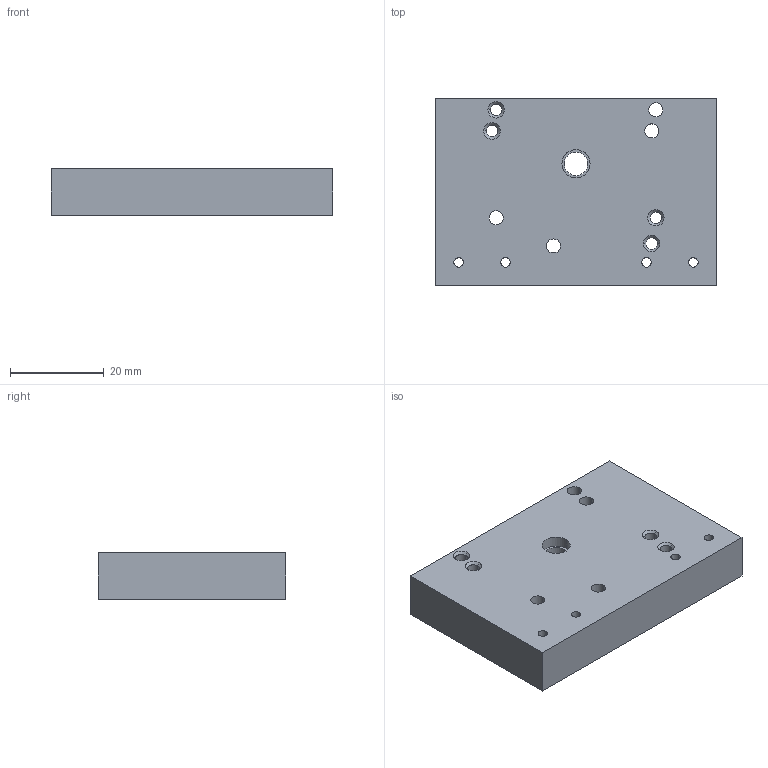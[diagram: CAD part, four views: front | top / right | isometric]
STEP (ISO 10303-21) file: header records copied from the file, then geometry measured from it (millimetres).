
FILE_DESCRIPTION (( 'STEP AP214' ), '1' );
FILE_NAME ('C7.STEP', '2016-02-27T11:53:54', ( '' ), ( '' ), 'SwSTEP 2.0', 'SolidWorks 2012', '' );
FILE_SCHEMA (( 'AUTOMOTIVE_DESIGN' ));
Length unit declared in the file: millimetre
Products named in the file (1): C7
Bounding box: 60 x 40 x 10 mm (x, y, z)
Volume: 22874 mm3; surface area: 8014.7 mm2
Topology: 1 solids, 1 shells, 89 faces, 217 edges, 138 vertices
Faces by surface type: cylinder 38, plane 22, cone 20, bspline 9
Entity records: 3259 total; most frequent: CARTESIAN_POINT 1054, DIRECTION 457, ORIENTED_EDGE 434, EDGE_CURVE 217, AXIS2_PLACEMENT_3D 177, VERTEX_POINT 138, EDGE_LOOP 123, LINE 103
